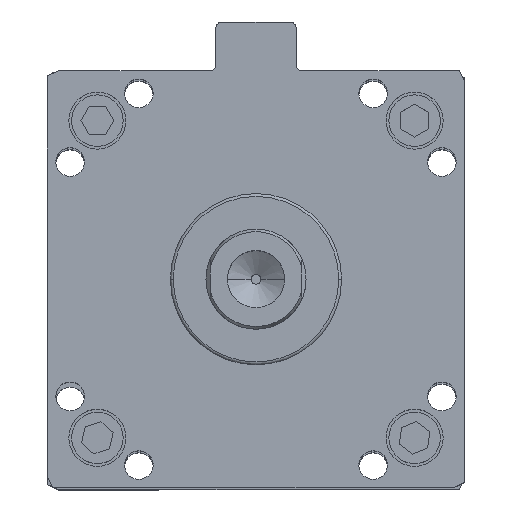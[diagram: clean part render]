
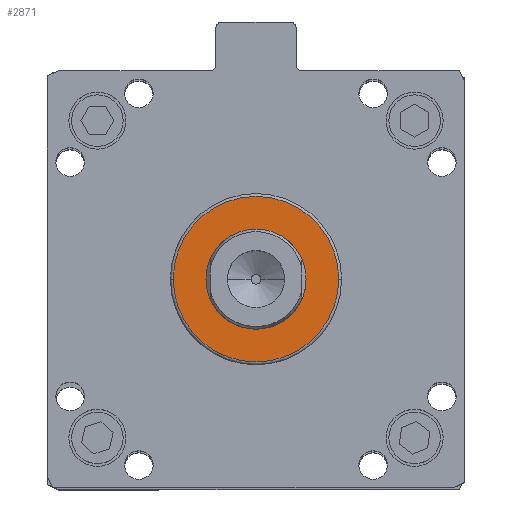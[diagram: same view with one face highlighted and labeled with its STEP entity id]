
A CAD part, top view. The second image highlights one B-rep face of the part: STEP entity #2871.
In plain terms, the highlighted planar face has unit normal (0, 0, 1).
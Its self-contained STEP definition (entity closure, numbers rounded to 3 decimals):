
#151 = ORIENTED_EDGE ( 'NONE', *, *, #4175, .T. ) ;
#176 = VERTEX_POINT ( 'NONE', #5438 ) ;
#359 = AXIS2_PLACEMENT_3D ( 'NONE', #4283, #9684, #5051 ) ;
#700 = CIRCLE ( 'NONE', #2309, 28.95 ) ;
#712 = VERTEX_POINT ( 'NONE', #6401 ) ;
#1276 = CARTESIAN_POINT ( 'NONE',  ( 17.5, 0., 30. ) ) ;
#1503 = AXIS2_PLACEMENT_3D ( 'NONE', #6891, #9983, #5336 ) ;
#1644 = ORIENTED_EDGE ( 'NONE', *, *, #4278, .T. ) ;
#2191 = CARTESIAN_POINT ( 'NONE',  ( 0., 0., 30. ) ) ;
#2309 = AXIS2_PLACEMENT_3D ( 'NONE', #8229, #3603, #8998 ) ;
#2871 = ADVANCED_FACE ( 'NONE', ( #4615, #4368 ), #9201, .T. ) ;
#2971 = DIRECTION ( 'NONE',  ( 1., 0., 0. ) ) ;
#3603 = DIRECTION ( 'NONE',  ( 0., 0., 1. ) ) ;
#3837 = CIRCLE ( 'NONE', #4363, 28.95 ) ;
#4175 = EDGE_CURVE ( 'NONE', #712, #176, #700, .T. ) ;
#4278 = EDGE_CURVE ( 'NONE', #176, #712, #3837, .T. ) ;
#4283 = CARTESIAN_POINT ( 'NONE',  ( 0., 0., 30. ) ) ;
#4363 = AXIS2_PLACEMENT_3D ( 'NONE', #4473, #9881, #5247 ) ;
#4368 = FACE_BOUND ( 'NONE', #9182, .T. ) ;
#4473 = CARTESIAN_POINT ( 'NONE',  ( 0., 0., 30. ) ) ;
#4561 = CIRCLE ( 'NONE', #7058, 17.5 ) ;
#4615 = FACE_OUTER_BOUND ( 'NONE', #8589, .T. ) ;
#5051 = DIRECTION ( 'NONE',  ( 1., 0., 0. ) ) ;
#5247 = DIRECTION ( 'NONE',  ( 1., 0., 0. ) ) ;
#5320 = EDGE_CURVE ( 'NONE', #7242, #6783, #4561, .T. ) ;
#5336 = DIRECTION ( 'NONE',  ( 1., 0., 0. ) ) ;
#5438 = CARTESIAN_POINT ( 'NONE',  ( 28.95, 0., 30. ) ) ;
#6401 = CARTESIAN_POINT ( 'NONE',  ( -28.95, 0., 30. ) ) ;
#6783 = VERTEX_POINT ( 'NONE', #1276 ) ;
#6842 = ORIENTED_EDGE ( 'NONE', *, *, #5320, .F. ) ;
#6891 = CARTESIAN_POINT ( 'NONE',  ( 0., 0., 30. ) ) ;
#7058 = AXIS2_PLACEMENT_3D ( 'NONE', #2191, #7607, #2971 ) ;
#7242 = VERTEX_POINT ( 'NONE', #7507 ) ;
#7403 = CIRCLE ( 'NONE', #359, 17.5 ) ;
#7507 = CARTESIAN_POINT ( 'NONE',  ( -17.5, 0., 30. ) ) ;
#7607 = DIRECTION ( 'NONE',  ( 0., 0., 1. ) ) ;
#8229 = CARTESIAN_POINT ( 'NONE',  ( 0., 0., 30. ) ) ;
#8413 = ORIENTED_EDGE ( 'NONE', *, *, #8913, .F. ) ;
#8589 = EDGE_LOOP ( 'NONE', ( #1644, #151 ) ) ;
#8913 = EDGE_CURVE ( 'NONE', #6783, #7242, #7403, .T. ) ;
#8998 = DIRECTION ( 'NONE',  ( 1., 0., 0. ) ) ;
#9182 = EDGE_LOOP ( 'NONE', ( #6842, #8413 ) ) ;
#9201 = PLANE ( 'NONE',  #1503 ) ;
#9684 = DIRECTION ( 'NONE',  ( 0., 0., 1. ) ) ;
#9881 = DIRECTION ( 'NONE',  ( 0., 0., 1. ) ) ;
#9983 = DIRECTION ( 'NONE',  ( 0., 0., 1. ) ) ;
